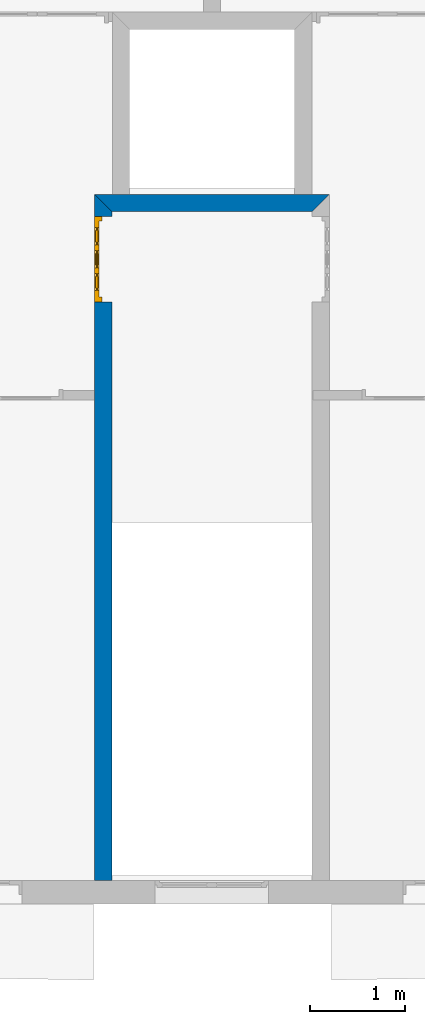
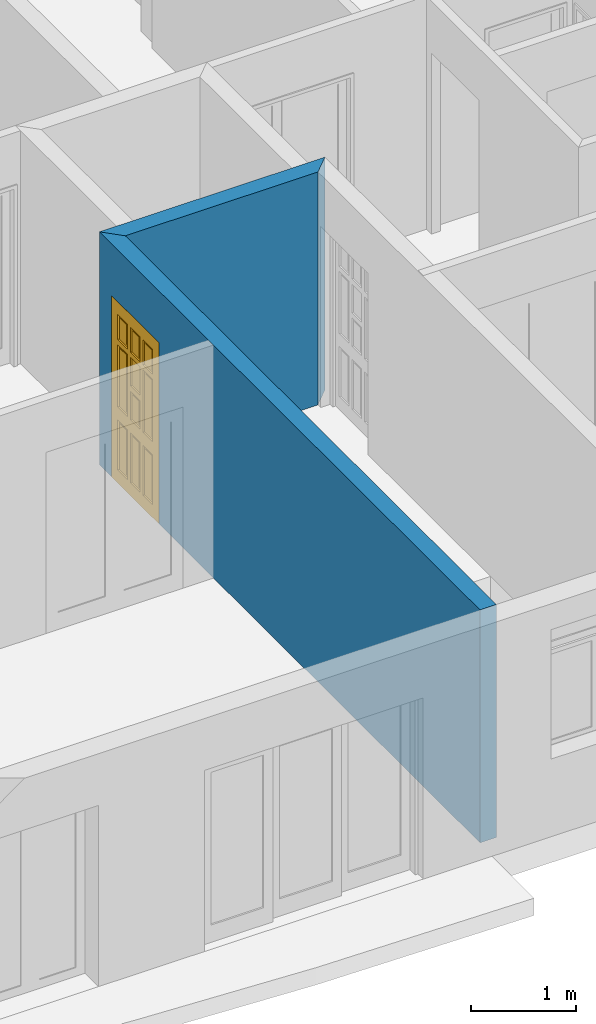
# One storey, part 5 of 11: 2 walls, 1 door, 1 opening.
"""IFC2X3 building model written with IfcOpenShell, lengths in metres."""

import ifcopenshell
import ifcopenshell.guid

model = None  # the IFC model being written
_history = None  # IfcOwnerHistory: only IFC2X3 demands one
_inside = {}  # id of a spatial element -> (the spatial element, [elements in it])
_under = {}  # id of a project, library or spatial element -> (it, [spatial elements below it])
_declared = {}  # id of a project -> (the project, [libraries it declares])
_typed = {}  # id of a type object -> (the type object, [elements of that type])
_made_of = {}  # id of a material, layer set ... -> (it, [elements and type objects made of it])


def new_model(schema):
    """Start an empty IFC model of exactly this schema.

    Asked for "IFC4X3", IfcOpenShell would pick the latest addendum, in which some entities
    have other attributes; the version numbers below select the first issue.
    IFC2X3 requires an IfcOwnerHistory on every rooted entity: one is made here for all.
    """
    global model, _history
    if schema == "IFC4X3":
        model = ifcopenshell.file(schema_version=(4, 3, 0, 0))
    else:
        model = ifcopenshell.file(schema=schema)
    _inside.clear()
    _under.clear()
    _declared.clear()
    _typed.clear()
    _made_of.clear()
    _history = None
    if model.schema == "IFC2X3":
        org = make("IfcOrganization", Name="unknown")
        user = make(
            "IfcPersonAndOrganization",
            ThePerson=make("IfcPerson", FamilyName="unknown"),
            TheOrganization=org,
        )
        app = make(
            "IfcApplication",
            ApplicationDeveloper=org,
            Version="unknown",
            ApplicationFullName="unknown",
            ApplicationIdentifier="unknown",
        )
        _history = make(
            "IfcOwnerHistory",
            OwningUser=user,
            OwningApplication=app,
            ChangeAction="ADDED",
            CreationDate=0,
        )
    return model


def make(cls, **values):
    """One entity of the class cls with the attributes given. An attribute that is None is left unset."""
    return model.create_entity(
        cls, **{name: value for name, value in values.items() if value is not None}
    )


def entity(cls, *values):
    """Any entity or typed value of the class cls, its attributes in the order of the schema. None: left unset."""
    e = model.create_entity(cls)
    for i, value in enumerate(values):
        if value is not None:
            e[i] = value
    return e


def rooted(cls, **values):
    """An entity with a GlobalId (a new one), such as an element, a storey or a relation."""
    return make(cls, GlobalId=ifcopenshell.guid.new(), OwnerHistory=_history, **values)


def si_unit(unit_type, name, prefix=None):
    """IfcSIUnit, for example si_unit("LENGTHUNIT", "METRE", prefix="MILLI")."""
    return make("IfcSIUnit", UnitType=unit_type, Prefix=prefix, Name=name)


def converted_unit(unit_type, name, factor, base, dimensions=None, offset=None):
    """IfcConversionBasedUnit, such as the inch: factor (a typed value) times the base unit."""
    return make(
        "IfcConversionBasedUnit"
        if offset is None
        else "IfcConversionBasedUnitWithOffset",
        ConversionOffset=offset,
        Dimensions=None
        if dimensions is None
        else entity("IfcDimensionalExponents", *dimensions),
        UnitType=unit_type,
        Name=name,
        ConversionFactor=make(
            "IfcMeasureWithUnit", ValueComponent=factor, UnitComponent=base
        ),
    )


def assignment(units):
    """IfcUnitAssignment: the units of a project."""
    return None if units is None else make("IfcUnitAssignment", Units=units)


def point(xyz):
    """IfcCartesianPoint."""
    return None if xyz is None else make("IfcCartesianPoint", Coordinates=xyz)


def direction(xyz):
    """IfcDirection."""
    return None if xyz is None else make("IfcDirection", DirectionRatios=xyz)


def frame(location, z_axis=None, x_axis=None):
    """IfcAxis2Placement3D, a coordinate frame: its origin and axes. An axis left out is left unset."""
    return make(
        "IfcAxis2Placement3D",
        Location=point(location),
        Axis=direction(z_axis),
        RefDirection=direction(x_axis),
    )


def frame_2d(location, x_axis=None):
    """IfcAxis2Placement2D, a coordinate frame in the plane: its origin and x axis."""
    return make(
        "IfcAxis2Placement2D", Location=point(location), RefDirection=direction(x_axis)
    )


def origin_with_axes():
    """The frame at (0, 0, 0) with the z axis (0, 0, 1) and the x axis (1, 0, 0) written out."""
    return frame((0.0, 0.0, 0.0), z_axis=(0.0, 0.0, 1.0), x_axis=(1.0, 0.0, 0.0))


def place(relative_to, where):
    """IfcLocalPlacement: puts the frame where relative to a parent placement (None: the world)."""
    return make(
        "IfcLocalPlacement", PlacementRelTo=relative_to, RelativePlacement=where
    )


def context(
    kind, dimensions, precision=None, world=None, true_north=None, identifier=None
):
    """IfcGeometricRepresentationContext, for example the 3D "Model" context."""
    return make(
        "IfcGeometricRepresentationContext",
        ContextIdentifier=identifier,
        ContextType=kind,
        CoordinateSpaceDimension=dimensions,
        Precision=precision,
        WorldCoordinateSystem=world,
        TrueNorth=true_north,
    )


def project(units=None, contexts=None):
    """IfcProject with its units and contexts."""
    return rooted(
        "IfcProject",
        Name="project",
        RepresentationContexts=contexts,
        UnitsInContext=assignment(units),
    )


def spatial(cls, under=None, at=None, **own):
    """A site, building, storey or space (cls), placed at a placement, below another one or the project."""
    s = rooted(cls, ObjectPlacement=at, **own)
    if under is not None:
        _under.setdefault(under.id(), (under, []))[1].append(s)
    return s


def polyline(points):
    """IfcPolyline through the points."""
    return make("IfcPolyline", Points=[point(p) for p in points])


def profile(cls, at=None, kind="AREA", **sizes):
    """A parametric profile (cls). Its sizes go by their IFC names, for example OverallWidth=200.0."""
    return make(cls, ProfileType=kind, Position=at, **sizes)


def rectangle(**sizes):
    """IfcRectangleProfileDef."""
    return profile("IfcRectangleProfileDef", **sizes)


def outline(outer, holes=None, kind="AREA"):
    """IfcArbitraryClosedProfileDef: a profile drawn as a closed curve; with holes, ...WithVoids."""
    if holes is None:
        return make("IfcArbitraryClosedProfileDef", ProfileType=kind, OuterCurve=outer)
    return make(
        "IfcArbitraryProfileDefWithVoids",
        ProfileType=kind,
        OuterCurve=outer,
        InnerCurves=holes,
    )


def extrude(swept, where, along, depth):
    """IfcExtrudedAreaSolid: the profile swept, set in the frame where, extruded along a direction by depth."""
    return make(
        "IfcExtrudedAreaSolid",
        SweptArea=swept,
        Position=where,
        ExtrudedDirection=direction(along),
        Depth=depth,
    )


def faces_of(points, faces, orient=None, outer=None):
    """IfcFace entities. A face is a list of loops; a loop is a list of indices into points, from 0.

    orient and outer hold one flag for each loop. By default every Orientation is true, the
    first loop of a face is its IfcFaceOuterBound and the others are IfcFaceBound.
    """
    made = []
    for i, loops in enumerate(faces):
        bounds = []
        for j, loop in enumerate(loops):
            is_outer = j == 0 if outer is None else outer[i][j]
            bounds.append(
                make(
                    "IfcFaceOuterBound" if is_outer else "IfcFaceBound",
                    Bound=make("IfcPolyLoop", Polygon=[points[k] for k in loop]),
                    Orientation=True if orient is None else orient[i][j],
                )
            )
        made.append(make("IfcFace", Bounds=bounds))
    return made


def faceted_brep(points, faces, orient=None, outer=None, voids=None):
    """IfcFacetedBrep: a solid bounded by flat faces; with voids (closed shells), ...WithVoids."""
    shared = [point(p) for p in points]
    hull = make("IfcClosedShell", CfsFaces=faces_of(shared, faces, orient, outer))
    if voids is None:
        return make("IfcFacetedBrep", Outer=hull)
    return make(
        "IfcFacetedBrepWithVoids",
        Outer=hull,
        Voids=[
            make(cls, CfsFaces=faces_of(shared, fs, o, b)) for cls, fs, o, b in voids
        ],
    )


def shape(context_of_items, identifier, shape_type, items):
    """IfcShapeRepresentation: the items that make up one representation, for example the "Body"."""
    return make(
        "IfcShapeRepresentation",
        ContextOfItems=context_of_items,
        RepresentationIdentifier=identifier,
        RepresentationType=shape_type,
        Items=items,
    )


def source(mapping_origin, context_of_items, identifier, shape_type, items):
    """IfcRepresentationMap: a shape defined once, which mapped items show again and again."""
    return make(
        "IfcRepresentationMap",
        MappingOrigin=mapping_origin,
        MappedRepresentation=shape(context_of_items, identifier, shape_type, items),
    )


def transform(
    local_origin,
    x_axis=None,
    y_axis=None,
    z_axis=None,
    scale=None,
    scale2=None,
    scale3=None,
    uniform=True,
):
    """IfcCartesianTransformationOperator3D, or its non-uniform kind. x_axis, y_axis, z_axis: its Axis1, 2, 3."""
    if uniform:
        return make(
            "IfcCartesianTransformationOperator3D",
            Axis1=direction(x_axis),
            Axis2=direction(y_axis),
            LocalOrigin=point(local_origin),
            Scale=scale,
            Axis3=direction(z_axis),
        )
    return make(
        "IfcCartesianTransformationOperator3DnonUniform",
        Axis1=direction(x_axis),
        Axis2=direction(y_axis),
        LocalOrigin=point(local_origin),
        Scale=scale,
        Axis3=direction(z_axis),
        Scale2=scale2,
        Scale3=scale3,
    )


def mapped(mapping_source, mapping_target):
    """IfcMappedItem: shows the shape of a source again, moved by a transform."""
    return make(
        "IfcMappedItem", MappingSource=mapping_source, MappingTarget=mapping_target
    )


def material(Name=None, Category=None):
    """IfcMaterial."""
    return make("IfcMaterial", Name=Name, Category=Category)


def layer(
    of_material, thickness, ventilated=None, Name=None, Category=None, Priority=None
):
    """IfcMaterialLayer: one layer of a wall or slab, of a material (None: an air gap)."""
    return make(
        "IfcMaterialLayer",
        Material=of_material,
        LayerThickness=thickness,
        IsVentilated=ventilated,
        Name=Name,
        Category=Category,
        Priority=Priority,
    )


def layer_set(layers, Name=None):
    """IfcMaterialLayerSet."""
    return make("IfcMaterialLayerSet", MaterialLayers=layers, LayerSetName=Name)


def layer_usage(for_layer_set, set_direction, sense, offset, extent=None):
    """IfcMaterialLayerSetUsage: how a layer set lies in its element."""
    return make(
        "IfcMaterialLayerSetUsage",
        ForLayerSet=for_layer_set,
        LayerSetDirection=set_direction,
        DirectionSense=sense,
        OffsetFromReferenceLine=offset,
        ReferenceExtent=extent,
    )


def made_of(thing, what):
    """Note that an element or type object is made of a material, layer set ...; save() writes the relation."""
    if what is not None:
        _made_of.setdefault(what.id(), (what, []))[1].append(thing)
    return thing


def type_object(cls, material=None, **own):
    """A type object (cls), such as IfcWallType, which elements share."""
    return made_of(rooted(cls, **own), material)


def element(
    cls,
    number,
    at=None,
    inside=None,
    cuts=None,
    type_object=None,
    material=None,
    context=None,
    identifier="Body",
    shape_type=None,
    held_by="IfcProductDefinitionShape",
    body=None,
    shapes=None,
    **own,
):
    """One element of the class cls, such as IfcWall. Its Tag is "e" and its number.

    at: its placement. inside: the storey or other place that contains it. cuts: it is an
    opening in that element (IfcRelVoidsElement). A single representation is given by context,
    identifier, shape_type and body (its items); several are given by shapes. held_by: the class
    of the entity that holds the representations. save() writes the other relations.
    """
    e = rooted(cls, Tag="e%d" % number, ObjectPlacement=at, **own)
    if body is not None:
        shapes = [shape(context, identifier, shape_type, body)]
    if shapes is not None:
        e.Representation = make(held_by, Representations=shapes)
    if inside is not None:
        _inside.setdefault(inside.id(), (inside, []))[1].append(e)
    if cuts is not None:
        rooted(
            "IfcRelVoidsElement", RelatingBuildingElement=cuts, RelatedOpeningElement=e
        )
    if type_object is not None:
        _typed.setdefault(type_object.id(), (type_object, []))[1].append(e)
    return made_of(e, material)


def fill(opening, filler):
    """IfcRelFillsElement: the door or window that sits in an opening."""
    return rooted(
        "IfcRelFillsElement",
        RelatingOpeningElement=opening,
        RelatedBuildingElement=filler,
    )


def aggregate(whole, parts):
    """IfcRelAggregates: a whole, such as a stair, and the parts it consists of."""
    return rooted("IfcRelAggregates", RelatingObject=whole, RelatedObjects=parts)


def save(model, path):
    """Write the relations noted so far, then the file.

    IfcRelAggregates (storeys below a building ...), IfcRelContainedInSpatialStructure (elements
    in a storey), IfcRelDefinesByType, IfcRelAssociatesMaterial and IfcRelDeclares: one each for
    every whole, place, type object, material and project.
    """
    for whole, parts in _under.values():
        aggregate(whole, parts)
    for where, things in _inside.values():
        rooted(
            "IfcRelContainedInSpatialStructure",
            RelatedElements=things,
            RelatingStructure=where,
        )
    for kind, things in _typed.values():
        rooted("IfcRelDefinesByType", RelatedObjects=things, RelatingType=kind)
    for what, things in _made_of.values():
        rooted("IfcRelAssociatesMaterial", RelatedObjects=things, RelatingMaterial=what)
    for by, libraries in _declared.values():
        rooted("IfcRelDeclares", RelatingContext=by, RelatedDefinitions=libraries)
    model.write(path)


model = new_model("IFC2X3")

# Units and contexts
context_of_model = context(None, 3, precision=1e-05, world=origin_with_axes(), true_north=direction((6.123234e-17, 1.0)))
plan_context = context("Plan", 3, precision=1e-05, world=origin_with_axes(), true_north=direction((6.123234e-17, 1.0)))
model_context = context("Model", 3, precision=1e-05, world=origin_with_axes(), true_north=direction((6.123234e-17, 1.0)))
ifc_project = project(units=[si_unit("LENGTHUNIT", "METRE"), si_unit("AREAUNIT", "SQUARE_METRE"), si_unit("VOLUMEUNIT", "CUBIC_METRE"), converted_unit("PLANEANGLEUNIT", "DEGREE", entity("IfcPlaneAngleMeasure", 0.017453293), si_unit("PLANEANGLEUNIT", "RADIAN"), dimensions=[0, 0, 0, 0, 0, 0, 0]), si_unit("SOLIDANGLEUNIT", "STERADIAN"), si_unit("MASSUNIT", "GRAM"), si_unit("TIMEUNIT", "SECOND"), si_unit("THERMODYNAMICTEMPERATUREUNIT", "DEGREE_CELSIUS"), si_unit("LUMINOUSINTENSITYUNIT", "LUMEN")], contexts=[context_of_model, plan_context, model_context])

# Site, building, storey
site_placement = place(None, origin_with_axes())
site = spatial("IfcSite", under=ifc_project, at=site_placement, Name="Por defecto Sitio", CompositionType="ELEMENT")
building_placement = place(site_placement, origin_with_axes())
building = spatial("IfcBuilding", under=site, at=building_placement, Name="Por defecto Edificio", CompositionType="ELEMENT")
storey_placement = place(building_placement, frame((0.0, 0.0, 13.2), z_axis=(0.0, 0.0, 1.0), x_axis=(1.0, 0.0, 0.0)))
storey = spatial("IfcBuildingStorey", under=building, at=storey_placement, Name="Cuarta", CompositionType="ELEMENT", Elevation=13.2)

# Wall, opening, door
ifc_material = material(Name="Ladrillo común")
ifc_layer = layer(ifc_material, 0.18, ventilated="UNKNOWN")
ifc_layer_set = layer_set([ifc_layer], Name="Ladrillo común")
ifc_layer_usage_1 = layer_usage(ifc_layer_set, "AXIS2", "NEGATIVE", 0.0)
wall_type = type_object("IfcWallType", Name="Ladrillo común", PredefinedType="NOTDEFINED")
wall_1_placement = place(storey_placement, frame((6.9566603, 7.2976562, 0.0), z_axis=(0.0, 0.0, 1.0), x_axis=(0.0, -1.0, 0.0)))
wall_1 = element("IfcWallStandardCase", 1, at=wall_1_placement, inside=storey, type_object=wall_type, material=ifc_layer_usage_1, Name="Muro-010", context=context_of_model, shape_type="SweptSolid", body=[
    extrude(outline(polyline([(-0.18, -0.18), (7.0476562, -0.18), (7.0476562, 0.0), (-8.0824236e-14, 0.0), (-0.18, -0.18)])), origin_with_axes(), (0.0, 0.0, 1.0), 2.7),
])
opening_placement = place(wall_1_placement, frame((0.5, -0.18, 0.0), z_axis=(0.0, 0.0, 1.0), x_axis=(1.0, 0.0, 0.0)))
opening = element("IfcOpeningElement", 2, at=opening_placement, cuts=wall_1, ObjectType="Opening", context=model_context, shape_type="SweptSolid", body=[
    extrude(rectangle(XDim=0.9, YDim=2.1, at=frame_2d((0.0, 1.05), x_axis=(-1.0, 0.0))), frame((0.0, 0.0, 0.0), z_axis=(0.0, 1.0, 0.0), x_axis=(-1.0, 0.0, 0.0)), (0.0, 0.0, 1.0), 0.18),
])
door_style = type_object("IfcDoorStyle", Name="P1 Entrada 12", ConstructionType="NOTDEFINED", OperationType="SINGLE_SWING_LEFT", ParameterTakesPrecedence=False, Sizeable=False)
shared_shape = source(origin_with_axes(), model_context, "Body", "Brep", [
    faceted_brep([(0.85, 0.031, 0.0), (0.85, -8.8817842e-16, 0.0), (0.85, -8.8817842e-16, 2.05), (0.85, 0.031, 2.05), (0.862, 0.031, 0.0), (0.862, 0.075, 0.0), (0.9, 0.075, 0.0), (0.9, -8.8817842e-16, 0.0), (0.9, -8.8817842e-16, 2.05), (0.862, 0.031, 2.05), (0.9, 0.075, 2.05), (0.862, 0.075, 2.05)], [[[0, 1, 2, 3]], [[4, 5, 6, 7, 1, 0]], [[7, 8, 2, 1]], [[9, 3, 2, 8, 10, 11]], [[9, 4, 0, 3]], [[11, 5, 4, 9]], [[11, 10, 6, 5]], [[8, 7, 6, 10]]]),
    faceted_brep([(0.038, 0.031, 2.05), (0.038, 0.075, 2.05), (0.0, 0.075, 2.05), (0.0, -8.8817842e-16, 2.05), (0.05, -8.8817842e-16, 2.05), (0.05, 0.031, 2.05), (0.038, 0.031, 0.0), (0.038, 0.075, 0.0), (0.0, 0.075, 0.0), (0.0, 0.0, 0.0), (0.05, -8.8817842e-16, 0.0), (0.05, 0.031, 0.0)], [[[0, 1, 2, 3, 4, 5]], [[0, 6, 7, 1]], [[7, 8, 2, 1]], [[9, 3, 2, 8]], [[10, 4, 3, 9]], [[5, 4, 10, 11]], [[5, 11, 6, 0]], [[6, 11, 10, 9, 8, 7]]]),
    faceted_brep([(0.862, 0.075, 2.062), (0.038, 0.075, 2.062), (0.038, 0.075, 2.05), (0.0, 0.075, 2.05), (0.0, 0.075, 2.1), (0.9, 0.075, 2.1), (0.9, 0.075, 2.05), (0.862, 0.075, 2.05), (0.862, 0.031, 2.062), (0.038, 0.031, 2.062), (0.038, 0.031, 2.05), (0.05, 0.031, 2.05), (0.05, -8.8817842e-16, 2.05), (0.0, -8.8817842e-16, 2.05), (0.0, -8.8817842e-16, 2.1), (0.9, -8.8817842e-16, 2.1), (0.9, -8.8817842e-16, 2.05), (0.862, 0.031, 2.05), (0.85, -8.8817842e-16, 2.05), (0.85, 0.031, 2.05)], [[[0, 1, 2, 3, 4, 5, 6, 7]], [[0, 8, 9, 1]], [[1, 9, 10, 2]], [[10, 11, 12, 13, 3, 2]], [[13, 14, 4, 3]], [[14, 15, 5, 4]], [[15, 16, 6, 5]], [[17, 7, 6, 16, 18, 19]], [[7, 17, 8, 0]], [[10, 9, 8, 17, 19, 11]], [[19, 18, 12, 11]], [[14, 13, 12, 18, 16, 15]]]),
    faceted_brep([(0.038, 0.075, 0.15), (0.118, 0.075, 0.15), (0.118, 0.031, 0.15), (0.038, 0.031, 0.15), (0.038, 0.075, 1.952), (0.118, 0.075, 1.952), (0.118, 0.075, 1.6618667), (0.118, 0.075, 1.6018667), (0.118, 0.075, 0.88), (0.118, 0.075, 0.73), (0.118, 0.031, 0.73), (0.118, 0.031, 0.88), (0.118, 0.031, 1.6018667), (0.118, 0.031, 1.6618667), (0.118, 0.031, 1.952), (0.038, 0.031, 1.952)], [[[0, 1, 2, 3]], [[0, 4, 5, 6, 7, 8, 9, 1]], [[1, 9, 10, 2]], [[3, 2, 10, 11, 12, 13, 14, 15]], [[4, 0, 3, 15]], [[5, 4, 15, 14]], [[6, 5, 14, 13]], [[7, 6, 13, 12]], [[8, 7, 12, 11]], [[9, 8, 11, 10]]]),
    faceted_brep([(0.862, 0.075, 0.15), (0.862, 0.075, 1.952), (0.862, 0.031, 1.952), (0.862, 0.031, 0.15), (0.782, 0.075, 0.15), (0.782, 0.075, 0.73), (0.782, 0.075, 0.88), (0.782, 0.075, 1.6018667), (0.782, 0.075, 1.6618667), (0.782, 0.075, 1.952), (0.782, 0.031, 1.952), (0.782, 0.031, 1.6618667), (0.782, 0.031, 1.6018667), (0.782, 0.031, 0.88), (0.782, 0.031, 0.73), (0.782, 0.031, 0.15)], [[[0, 1, 2, 3]], [[0, 4, 5, 6, 7, 8, 9, 1]], [[1, 9, 10, 2]], [[3, 2, 10, 11, 12, 13, 14, 15]], [[4, 0, 3, 15]], [[5, 4, 15, 14]], [[6, 5, 14, 13]], [[7, 6, 13, 12]], [[8, 7, 12, 11]], [[9, 8, 11, 10]]]),
    faceted_brep([(0.038, 0.075, 0.0), (0.862, 0.075, 0.0), (0.862, 0.031, 0.0), (0.038, 0.031, 0.0), (0.038, 0.075, 0.15), (0.118, 0.075, 0.15), (0.29933333, 0.075, 0.15), (0.35933333, 0.075, 0.15), (0.54066667, 0.075, 0.15), (0.60066667, 0.075, 0.15), (0.782, 0.075, 0.15), (0.862, 0.075, 0.15), (0.862, 0.031, 0.15), (0.782, 0.031, 0.15), (0.60066667, 0.031, 0.15), (0.54066667, 0.031, 0.15), (0.35933333, 0.031, 0.15), (0.29933333, 0.031, 0.15), (0.118, 0.031, 0.15), (0.038, 0.031, 0.15)], [[[0, 1, 2, 3]], [[0, 4, 5, 6, 7, 8, 9, 10, 11, 1]], [[1, 11, 12, 2]], [[3, 2, 12, 13, 14, 15, 16, 17, 18, 19]], [[4, 0, 3, 19]], [[5, 4, 19, 18]], [[6, 5, 18, 17]], [[7, 6, 17, 16]], [[8, 7, 16, 15]], [[9, 8, 15, 14]], [[10, 9, 14, 13]], [[11, 10, 13, 12]]]),
    faceted_brep([(0.038, 0.075, 2.062), (0.038, 0.075, 1.952), (0.038, 0.031, 1.952), (0.038, 0.031, 2.062), (0.862, 0.075, 2.062), (0.862, 0.075, 1.952), (0.782, 0.075, 1.952), (0.60066667, 0.075, 1.952), (0.54066667, 0.075, 1.952), (0.35933333, 0.075, 1.952), (0.29933333, 0.075, 1.952), (0.118, 0.075, 1.952), (0.118, 0.031, 1.952), (0.29933333, 0.031, 1.952), (0.35933333, 0.031, 1.952), (0.54066667, 0.031, 1.952), (0.60066667, 0.031, 1.952), (0.782, 0.031, 1.952), (0.862, 0.031, 1.952), (0.862, 0.031, 2.062)], [[[0, 1, 2, 3]], [[0, 4, 5, 6, 7, 8, 9, 10, 11, 1]], [[1, 11, 12, 2]], [[3, 2, 12, 13, 14, 15, 16, 17, 18, 19]], [[4, 0, 3, 19]], [[5, 4, 19, 18]], [[6, 5, 18, 17]], [[7, 6, 17, 16]], [[8, 7, 16, 15]], [[9, 8, 15, 14]], [[10, 9, 14, 13]], [[11, 10, 13, 12]]]),
    faceted_brep([(0.35933333, 0.075, 0.15), (0.35933333, 0.075, 0.73), (0.35933333, 0.031, 0.73), (0.35933333, 0.031, 0.15), (0.29933333, 0.075, 0.15), (0.29933333, 0.075, 0.73), (0.29933333, 0.031, 0.73), (0.29933333, 0.031, 0.15)], [[[0, 1, 2, 3]], [[0, 4, 5, 1]], [[1, 5, 6, 2]], [[3, 2, 6, 7]], [[4, 0, 3, 7]], [[5, 4, 7, 6]]]),
    faceted_brep([(0.35933333, 0.075, 0.88), (0.35933333, 0.075, 1.2109333), (0.35933333, 0.031, 1.2109333), (0.35933333, 0.031, 0.88), (0.29933333, 0.075, 0.88), (0.29933333, 0.075, 1.6018667), (0.35933333, 0.075, 1.6018667), (0.35933333, 0.075, 1.2709333), (0.35933333, 0.031, 1.2709333), (0.35933333, 0.031, 1.6018667), (0.29933333, 0.031, 1.6018667), (0.29933333, 0.031, 0.88)], [[[0, 1, 2, 3]], [[0, 4, 5, 6, 7, 1]], [[1, 7, 8, 2]], [[3, 2, 8, 9, 10, 11]], [[4, 0, 3, 11]], [[5, 4, 11, 10]], [[6, 5, 10, 9]], [[7, 6, 9, 8]]]),
    faceted_brep([(0.35933333, 0.075, 1.6618667), (0.35933333, 0.075, 1.952), (0.35933333, 0.031, 1.952), (0.35933333, 0.031, 1.6618667), (0.29933333, 0.075, 1.6618667), (0.29933333, 0.075, 1.952), (0.29933333, 0.031, 1.952), (0.29933333, 0.031, 1.6618667)], [[[0, 1, 2, 3]], [[0, 4, 5, 1]], [[1, 5, 6, 2]], [[3, 2, 6, 7]], [[4, 0, 3, 7]], [[5, 4, 7, 6]]]),
    faceted_brep([(0.60066667, 0.075, 0.15), (0.60066667, 0.075, 0.73), (0.60066667, 0.031, 0.73), (0.60066667, 0.031, 0.15), (0.54066667, 0.075, 0.15), (0.54066667, 0.075, 0.73), (0.54066667, 0.031, 0.73), (0.54066667, 0.031, 0.15)], [[[0, 1, 2, 3]], [[0, 4, 5, 1]], [[1, 5, 6, 2]], [[3, 2, 6, 7]], [[4, 0, 3, 7]], [[5, 4, 7, 6]]]),
    faceted_brep([(0.60066667, 0.075, 0.88), (0.60066667, 0.075, 1.6018667), (0.60066667, 0.031, 1.6018667), (0.60066667, 0.031, 0.88), (0.54066667, 0.075, 0.88), (0.54066667, 0.075, 1.2109333), (0.54066667, 0.075, 1.2709333), (0.54066667, 0.075, 1.6018667), (0.54066667, 0.031, 1.6018667), (0.54066667, 0.031, 1.2709333), (0.54066667, 0.031, 1.2109333), (0.54066667, 0.031, 0.88)], [[[0, 1, 2, 3]], [[0, 4, 5, 6, 7, 1]], [[1, 7, 8, 2]], [[3, 2, 8, 9, 10, 11]], [[4, 0, 3, 11]], [[5, 4, 11, 10]], [[6, 5, 10, 9]], [[7, 6, 9, 8]]]),
    faceted_brep([(0.60066667, 0.075, 1.6618667), (0.60066667, 0.075, 1.952), (0.60066667, 0.031, 1.952), (0.60066667, 0.031, 1.6618667), (0.54066667, 0.075, 1.6618667), (0.54066667, 0.075, 1.952), (0.54066667, 0.031, 1.952), (0.54066667, 0.031, 1.6618667)], [[[0, 1, 2, 3]], [[0, 4, 5, 1]], [[1, 5, 6, 2]], [[3, 2, 6, 7]], [[4, 0, 3, 7]], [[5, 4, 7, 6]]]),
    faceted_brep([(0.118, 0.075, 1.6018667), (0.29933333, 0.075, 1.6018667), (0.29933333, 0.031, 1.6018667), (0.118, 0.031, 1.6018667), (0.118, 0.075, 1.6618667), (0.29933333, 0.075, 1.6618667), (0.35933333, 0.075, 1.6618667), (0.54066667, 0.075, 1.6618667), (0.60066667, 0.075, 1.6618667), (0.782, 0.075, 1.6618667), (0.782, 0.075, 1.6018667), (0.60066667, 0.075, 1.6018667), (0.54066667, 0.075, 1.6018667), (0.35933333, 0.075, 1.6018667), (0.35933333, 0.031, 1.6018667), (0.54066667, 0.031, 1.6018667), (0.60066667, 0.031, 1.6018667), (0.782, 0.031, 1.6018667), (0.782, 0.031, 1.6618667), (0.60066667, 0.031, 1.6618667), (0.54066667, 0.031, 1.6618667), (0.35933333, 0.031, 1.6618667), (0.29933333, 0.031, 1.6618667), (0.118, 0.031, 1.6618667)], [[[0, 1, 2, 3]], [[0, 4, 5, 6, 7, 8, 9, 10, 11, 12, 13, 1]], [[1, 13, 14, 2]], [[3, 2, 14, 15, 16, 17, 18, 19, 20, 21, 22, 23]], [[4, 0, 3, 23]], [[5, 4, 23, 22]], [[6, 5, 22, 21]], [[7, 6, 21, 20]], [[8, 7, 20, 19]], [[9, 8, 19, 18]], [[10, 9, 18, 17]], [[11, 10, 17, 16]], [[12, 11, 16, 15]], [[13, 12, 15, 14]]]),
    faceted_brep([(0.54066667, 0.075, 1.2109333), (0.54066667, 0.075, 1.2709333), (0.54066667, 0.031, 1.2709333), (0.54066667, 0.031, 1.2109333), (0.35933333, 0.075, 1.2109333), (0.35933333, 0.075, 1.2709333), (0.35933333, 0.031, 1.2709333), (0.35933333, 0.031, 1.2109333)], [[[0, 1, 2, 3]], [[0, 4, 5, 1]], [[1, 5, 6, 2]], [[3, 2, 6, 7]], [[4, 0, 3, 7]], [[5, 4, 7, 6]]]),
    faceted_brep([(0.118, 0.075, 0.73), (0.29933333, 0.075, 0.73), (0.29933333, 0.031, 0.73), (0.118, 0.031, 0.73), (0.118, 0.075, 0.88), (0.29933333, 0.075, 0.88), (0.35933333, 0.075, 0.88), (0.54066667, 0.075, 0.88), (0.60066667, 0.075, 0.88), (0.782, 0.075, 0.88), (0.782, 0.075, 0.73), (0.60066667, 0.075, 0.73), (0.54066667, 0.075, 0.73), (0.35933333, 0.075, 0.73), (0.35933333, 0.031, 0.73), (0.54066667, 0.031, 0.73), (0.60066667, 0.031, 0.73), (0.782, 0.031, 0.73), (0.782, 0.031, 0.88), (0.60066667, 0.031, 0.88), (0.54066667, 0.031, 0.88), (0.35933333, 0.031, 0.88), (0.29933333, 0.031, 0.88), (0.118, 0.031, 0.88)], [[[0, 1, 2, 3]], [[0, 4, 5, 6, 7, 8, 9, 10, 11, 12, 13, 1]], [[1, 13, 14, 2]], [[3, 2, 14, 15, 16, 17, 18, 19, 20, 21, 22, 23]], [[4, 0, 3, 23]], [[5, 4, 23, 22]], [[6, 5, 22, 21]], [[7, 6, 21, 20]], [[8, 7, 20, 19]], [[9, 8, 19, 18]], [[10, 9, 18, 17]], [[11, 10, 17, 16]], [[12, 11, 16, 15]], [[13, 12, 15, 14]]]),
    faceted_brep([(0.118, 0.058, 0.15), (0.29933333, 0.058, 0.15), (0.29933333, 0.048, 0.15), (0.118, 0.048, 0.15), (0.118, 0.058, 0.73), (0.29933333, 0.058, 0.73), (0.29933333, 0.048, 0.73), (0.118, 0.048, 0.73)], [[[0, 1, 2, 3]], [[0, 4, 5, 1]], [[1, 5, 6, 2]], [[3, 2, 6, 7]], [[4, 0, 3, 7]], [[5, 4, 7, 6]]]),
    faceted_brep([(0.35933333, 0.058, 0.15), (0.54066667, 0.058, 0.15), (0.54066667, 0.048, 0.15), (0.35933333, 0.048, 0.15), (0.35933333, 0.058, 0.73), (0.54066667, 0.058, 0.73), (0.54066667, 0.048, 0.73), (0.35933333, 0.048, 0.73)], [[[0, 1, 2, 3]], [[0, 4, 5, 1]], [[1, 5, 6, 2]], [[3, 2, 6, 7]], [[4, 0, 3, 7]], [[5, 4, 7, 6]]]),
    faceted_brep([(0.60066667, 0.058, 0.15), (0.782, 0.058, 0.15), (0.782, 0.048, 0.15), (0.60066667, 0.048, 0.15), (0.60066667, 0.058, 0.73), (0.782, 0.058, 0.73), (0.782, 0.048, 0.73), (0.60066667, 0.048, 0.73)], [[[0, 1, 2, 3]], [[0, 4, 5, 1]], [[1, 5, 6, 2]], [[3, 2, 6, 7]], [[4, 0, 3, 7]], [[5, 4, 7, 6]]]),
    faceted_brep([(0.118, 0.058, 1.6618667), (0.29933333, 0.058, 1.6618667), (0.29933333, 0.048, 1.6618667), (0.118, 0.048, 1.6618667), (0.118, 0.058, 1.952), (0.29933333, 0.058, 1.952), (0.29933333, 0.048, 1.952), (0.118, 0.048, 1.952)], [[[0, 1, 2, 3]], [[0, 4, 5, 1]], [[1, 5, 6, 2]], [[3, 2, 6, 7]], [[4, 0, 3, 7]], [[5, 4, 7, 6]]]),
    faceted_brep([(0.35933333, 0.058, 1.6618667), (0.54066667, 0.058, 1.6618667), (0.54066667, 0.048, 1.6618667), (0.35933333, 0.048, 1.6618667), (0.35933333, 0.058, 1.952), (0.54066667, 0.058, 1.952), (0.54066667, 0.048, 1.952), (0.35933333, 0.048, 1.952)], [[[0, 1, 2, 3]], [[0, 4, 5, 1]], [[1, 5, 6, 2]], [[3, 2, 6, 7]], [[4, 0, 3, 7]], [[5, 4, 7, 6]]]),
    faceted_brep([(0.60066667, 0.058, 1.6618667), (0.782, 0.058, 1.6618667), (0.782, 0.048, 1.6618667), (0.60066667, 0.048, 1.6618667), (0.60066667, 0.058, 1.952), (0.782, 0.058, 1.952), (0.782, 0.048, 1.952), (0.60066667, 0.048, 1.952)], [[[0, 1, 2, 3]], [[0, 4, 5, 1]], [[1, 5, 6, 2]], [[3, 2, 6, 7]], [[4, 0, 3, 7]], [[5, 4, 7, 6]]]),
    faceted_brep([(0.118, 0.058, 0.88), (0.29933333, 0.058, 0.88), (0.29933333, 0.048, 0.88), (0.118, 0.048, 0.88), (0.118, 0.058, 1.6018667), (0.29933333, 0.058, 1.6018667), (0.29933333, 0.048, 1.6018667), (0.118, 0.048, 1.6018667)], [[[0, 1, 2, 3]], [[0, 4, 5, 1]], [[1, 5, 6, 2]], [[3, 2, 6, 7]], [[4, 0, 3, 7]], [[5, 4, 7, 6]]]),
    faceted_brep([(0.35933333, 0.058, 0.88), (0.54066667, 0.058, 0.88), (0.54066667, 0.048, 0.88), (0.35933333, 0.048, 0.88), (0.35933333, 0.058, 1.2109333), (0.54066667, 0.058, 1.2109333), (0.54066667, 0.048, 1.2109333), (0.35933333, 0.048, 1.2109333)], [[[0, 1, 2, 3]], [[0, 4, 5, 1]], [[1, 5, 6, 2]], [[3, 2, 6, 7]], [[4, 0, 3, 7]], [[5, 4, 7, 6]]]),
    faceted_brep([(0.60066667, 0.058, 0.88), (0.782, 0.058, 0.88), (0.782, 0.048, 0.88), (0.60066667, 0.048, 0.88), (0.60066667, 0.058, 1.6018667), (0.782, 0.058, 1.6018667), (0.782, 0.048, 1.6018667), (0.60066667, 0.048, 1.6018667)], [[[0, 1, 2, 3]], [[0, 4, 5, 1]], [[1, 5, 6, 2]], [[3, 2, 6, 7]], [[4, 0, 3, 7]], [[5, 4, 7, 6]]]),
    faceted_brep([(0.35933333, 0.058, 1.2709333), (0.54066667, 0.058, 1.2709333), (0.54066667, 0.048, 1.2709333), (0.35933333, 0.048, 1.2709333), (0.35933333, 0.058, 1.6018667), (0.54066667, 0.058, 1.6018667), (0.54066667, 0.048, 1.6018667), (0.35933333, 0.048, 1.6018667)], [[[0, 1, 2, 3]], [[0, 4, 5, 1]], [[1, 5, 6, 2]], [[3, 2, 6, 7]], [[4, 0, 3, 7]], [[5, 4, 7, 6]]]),
    faceted_brep([(0.148, 0.066, 0.18), (0.26933333, 0.066, 0.18), (0.26933333, 0.058, 0.18), (0.148, 0.058, 0.18), (0.148, 0.066, 0.7), (0.26933333, 0.066, 0.7), (0.26933333, 0.058, 0.7), (0.148, 0.058, 0.7)], [[[0, 1, 2, 3]], [[0, 4, 5, 1]], [[1, 5, 6, 2]], [[3, 2, 6, 7]], [[4, 0, 3, 7]], [[5, 4, 7, 6]]]),
    faceted_brep([(0.38933333, 0.066, 0.18), (0.51066667, 0.066, 0.18), (0.51066667, 0.058, 0.18), (0.38933333, 0.058, 0.18), (0.38933333, 0.066, 0.7), (0.51066667, 0.066, 0.7), (0.51066667, 0.058, 0.7), (0.38933333, 0.058, 0.7)], [[[0, 1, 2, 3]], [[0, 4, 5, 1]], [[1, 5, 6, 2]], [[3, 2, 6, 7]], [[4, 0, 3, 7]], [[5, 4, 7, 6]]]),
    faceted_brep([(0.63066667, 0.066, 0.18), (0.752, 0.066, 0.18), (0.752, 0.058, 0.18), (0.63066667, 0.058, 0.18), (0.63066667, 0.066, 0.7), (0.752, 0.066, 0.7), (0.752, 0.058, 0.7), (0.63066667, 0.058, 0.7)], [[[0, 1, 2, 3]], [[0, 4, 5, 1]], [[1, 5, 6, 2]], [[3, 2, 6, 7]], [[4, 0, 3, 7]], [[5, 4, 7, 6]]]),
    faceted_brep([(0.148, 0.066, 1.6918667), (0.26933333, 0.066, 1.6918667), (0.26933333, 0.058, 1.6918667), (0.148, 0.058, 1.6918667), (0.148, 0.066, 1.922), (0.26933333, 0.066, 1.922), (0.26933333, 0.058, 1.922), (0.148, 0.058, 1.922)], [[[0, 1, 2, 3]], [[0, 4, 5, 1]], [[1, 5, 6, 2]], [[3, 2, 6, 7]], [[4, 0, 3, 7]], [[5, 4, 7, 6]]]),
    faceted_brep([(0.38933333, 0.066, 1.6918667), (0.51066667, 0.066, 1.6918667), (0.51066667, 0.058, 1.6918667), (0.38933333, 0.058, 1.6918667), (0.38933333, 0.066, 1.922), (0.51066667, 0.066, 1.922), (0.51066667, 0.058, 1.922), (0.38933333, 0.058, 1.922)], [[[0, 1, 2, 3]], [[0, 4, 5, 1]], [[1, 5, 6, 2]], [[3, 2, 6, 7]], [[4, 0, 3, 7]], [[5, 4, 7, 6]]]),
    faceted_brep([(0.63066667, 0.066, 1.6918667), (0.752, 0.066, 1.6918667), (0.752, 0.058, 1.6918667), (0.63066667, 0.058, 1.6918667), (0.63066667, 0.066, 1.922), (0.752, 0.066, 1.922), (0.752, 0.058, 1.922), (0.63066667, 0.058, 1.922)], [[[0, 1, 2, 3]], [[0, 4, 5, 1]], [[1, 5, 6, 2]], [[3, 2, 6, 7]], [[4, 0, 3, 7]], [[5, 4, 7, 6]]]),
    faceted_brep([(0.148, 0.066, 0.91), (0.26933333, 0.066, 0.91), (0.26933333, 0.058, 0.91), (0.148, 0.058, 0.91), (0.148, 0.066, 1.5718667), (0.26933333, 0.066, 1.5718667), (0.26933333, 0.058, 1.5718667), (0.148, 0.058, 1.5718667)], [[[0, 1, 2, 3]], [[0, 4, 5, 1]], [[1, 5, 6, 2]], [[3, 2, 6, 7]], [[4, 0, 3, 7]], [[5, 4, 7, 6]]]),
    faceted_brep([(0.38933333, 0.066, 0.91), (0.51066667, 0.066, 0.91), (0.51066667, 0.058, 0.91), (0.38933333, 0.058, 0.91), (0.38933333, 0.066, 1.1809333), (0.51066667, 0.066, 1.1809333), (0.51066667, 0.058, 1.1809333), (0.38933333, 0.058, 1.1809333)], [[[0, 1, 2, 3]], [[0, 4, 5, 1]], [[1, 5, 6, 2]], [[3, 2, 6, 7]], [[4, 0, 3, 7]], [[5, 4, 7, 6]]]),
    faceted_brep([(0.63066667, 0.066, 0.91), (0.752, 0.066, 0.91), (0.752, 0.058, 0.91), (0.63066667, 0.058, 0.91), (0.63066667, 0.066, 1.5718667), (0.752, 0.066, 1.5718667), (0.752, 0.058, 1.5718667), (0.63066667, 0.058, 1.5718667)], [[[0, 1, 2, 3]], [[0, 4, 5, 1]], [[1, 5, 6, 2]], [[3, 2, 6, 7]], [[4, 0, 3, 7]], [[5, 4, 7, 6]]]),
    faceted_brep([(0.148, 0.048, 0.18), (0.26933333, 0.048, 0.18), (0.26933333, 0.04, 0.18), (0.148, 0.04, 0.18), (0.148, 0.048, 0.7), (0.26933333, 0.048, 0.7), (0.26933333, 0.04, 0.7), (0.148, 0.04, 0.7)], [[[0, 1, 2, 3]], [[0, 4, 5, 1]], [[1, 5, 6, 2]], [[3, 2, 6, 7]], [[4, 0, 3, 7]], [[5, 4, 7, 6]]]),
    faceted_brep([(0.38933333, 0.048, 0.18), (0.51066667, 0.048, 0.18), (0.51066667, 0.04, 0.18), (0.38933333, 0.04, 0.18), (0.38933333, 0.048, 0.7), (0.51066667, 0.048, 0.7), (0.51066667, 0.04, 0.7), (0.38933333, 0.04, 0.7)], [[[0, 1, 2, 3]], [[0, 4, 5, 1]], [[1, 5, 6, 2]], [[3, 2, 6, 7]], [[4, 0, 3, 7]], [[5, 4, 7, 6]]]),
    faceted_brep([(0.63066667, 0.048, 0.18), (0.752, 0.048, 0.18), (0.752, 0.04, 0.18), (0.63066667, 0.04, 0.18), (0.63066667, 0.048, 0.7), (0.752, 0.048, 0.7), (0.752, 0.04, 0.7), (0.63066667, 0.04, 0.7)], [[[0, 1, 2, 3]], [[0, 4, 5, 1]], [[1, 5, 6, 2]], [[3, 2, 6, 7]], [[4, 0, 3, 7]], [[5, 4, 7, 6]]]),
    faceted_brep([(0.148, 0.048, 1.6918667), (0.26933333, 0.048, 1.6918667), (0.26933333, 0.04, 1.6918667), (0.148, 0.04, 1.6918667), (0.148, 0.048, 1.922), (0.26933333, 0.048, 1.922), (0.26933333, 0.04, 1.922), (0.148, 0.04, 1.922)], [[[0, 1, 2, 3]], [[0, 4, 5, 1]], [[1, 5, 6, 2]], [[3, 2, 6, 7]], [[4, 0, 3, 7]], [[5, 4, 7, 6]]]),
    faceted_brep([(0.38933333, 0.048, 1.6918667), (0.51066667, 0.048, 1.6918667), (0.51066667, 0.04, 1.6918667), (0.38933333, 0.04, 1.6918667), (0.38933333, 0.048, 1.922), (0.51066667, 0.048, 1.922), (0.51066667, 0.04, 1.922), (0.38933333, 0.04, 1.922)], [[[0, 1, 2, 3]], [[0, 4, 5, 1]], [[1, 5, 6, 2]], [[3, 2, 6, 7]], [[4, 0, 3, 7]], [[5, 4, 7, 6]]]),
    faceted_brep([(0.63066667, 0.048, 1.6918667), (0.752, 0.048, 1.6918667), (0.752, 0.04, 1.6918667), (0.63066667, 0.04, 1.6918667), (0.63066667, 0.048, 1.922), (0.752, 0.048, 1.922), (0.752, 0.04, 1.922), (0.63066667, 0.04, 1.922)], [[[0, 1, 2, 3]], [[0, 4, 5, 1]], [[1, 5, 6, 2]], [[3, 2, 6, 7]], [[4, 0, 3, 7]], [[5, 4, 7, 6]]]),
    faceted_brep([(0.148, 0.048, 0.91), (0.26933333, 0.048, 0.91), (0.26933333, 0.04, 0.91), (0.148, 0.04, 0.91), (0.148, 0.048, 1.5718667), (0.26933333, 0.048, 1.5718667), (0.26933333, 0.04, 1.5718667), (0.148, 0.04, 1.5718667)], [[[0, 1, 2, 3]], [[0, 4, 5, 1]], [[1, 5, 6, 2]], [[3, 2, 6, 7]], [[4, 0, 3, 7]], [[5, 4, 7, 6]]]),
    faceted_brep([(0.38933333, 0.048, 0.91), (0.51066667, 0.048, 0.91), (0.51066667, 0.04, 0.91), (0.38933333, 0.04, 0.91), (0.38933333, 0.048, 1.1809333), (0.51066667, 0.048, 1.1809333), (0.51066667, 0.04, 1.1809333), (0.38933333, 0.04, 1.1809333)], [[[0, 1, 2, 3]], [[0, 4, 5, 1]], [[1, 5, 6, 2]], [[3, 2, 6, 7]], [[4, 0, 3, 7]], [[5, 4, 7, 6]]]),
    faceted_brep([(0.63066667, 0.048, 0.91), (0.752, 0.048, 0.91), (0.752, 0.04, 0.91), (0.63066667, 0.04, 0.91), (0.63066667, 0.048, 1.5718667), (0.752, 0.048, 1.5718667), (0.752, 0.04, 1.5718667), (0.63066667, 0.04, 1.5718667)], [[[0, 1, 2, 3]], [[0, 4, 5, 1]], [[1, 5, 6, 2]], [[3, 2, 6, 7]], [[4, 0, 3, 7]], [[5, 4, 7, 6]]]),
])
door_placement = place(opening_placement, frame((0.45, 0.075, 0.0), z_axis=(0.0, 0.0, 1.0), x_axis=(-1.0, 0.0, 0.0)))
door = element("IfcDoor", 3, at=door_placement, inside=storey, type_object=door_style, Name="P15", OverallHeight=2.1, OverallWidth=0.9, context=model_context, shape_type="MappedRepresentation", body=[
    mapped(shared_shape, transform((0.0, 0.0, 0.0), scale=1.0)),
])
fill(opening, door)

# Wall
ifc_layer_usage_2 = layer_usage(ifc_layer_set, "AXIS2", "POSITIVE", 0.0)
wall_2_placement = place(storey_placement, frame((6.9566603, 7.2976562, 0.0), z_axis=(0.0, 0.0, 1.0), x_axis=(1.0, 0.0, 0.0)))
element("IfcWallStandardCase", 4, at=wall_2_placement, inside=storey, type_object=wall_type, material=ifc_layer_usage_2, Name="Muro-009", context=context_of_model, shape_type="SweptSolid", body=[
    extrude(outline(polyline([(0.0, 0.0), (2.1125095, 0.0), (2.2925095, 0.18), (-0.18, 0.18), (0.0, 0.0)])), origin_with_axes(), (0.0, 0.0, 1.0), 2.7),
])

save(model, "model.ifc")
